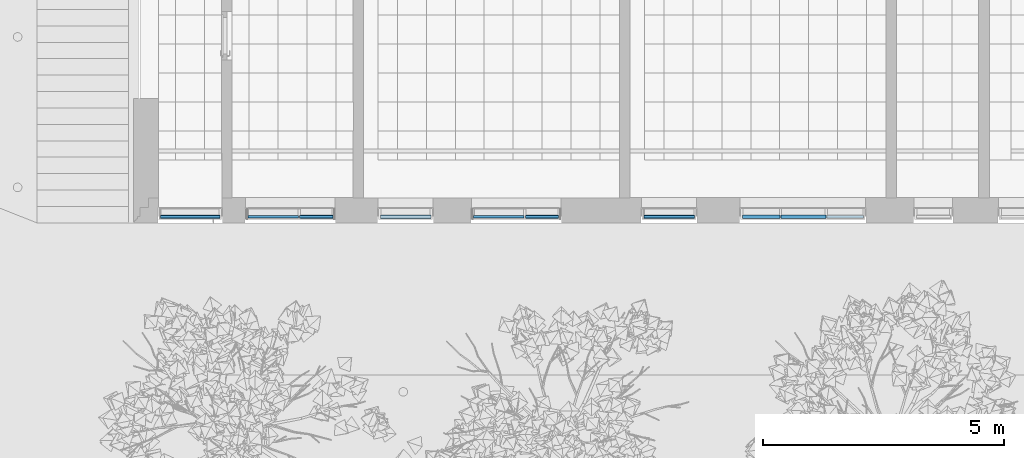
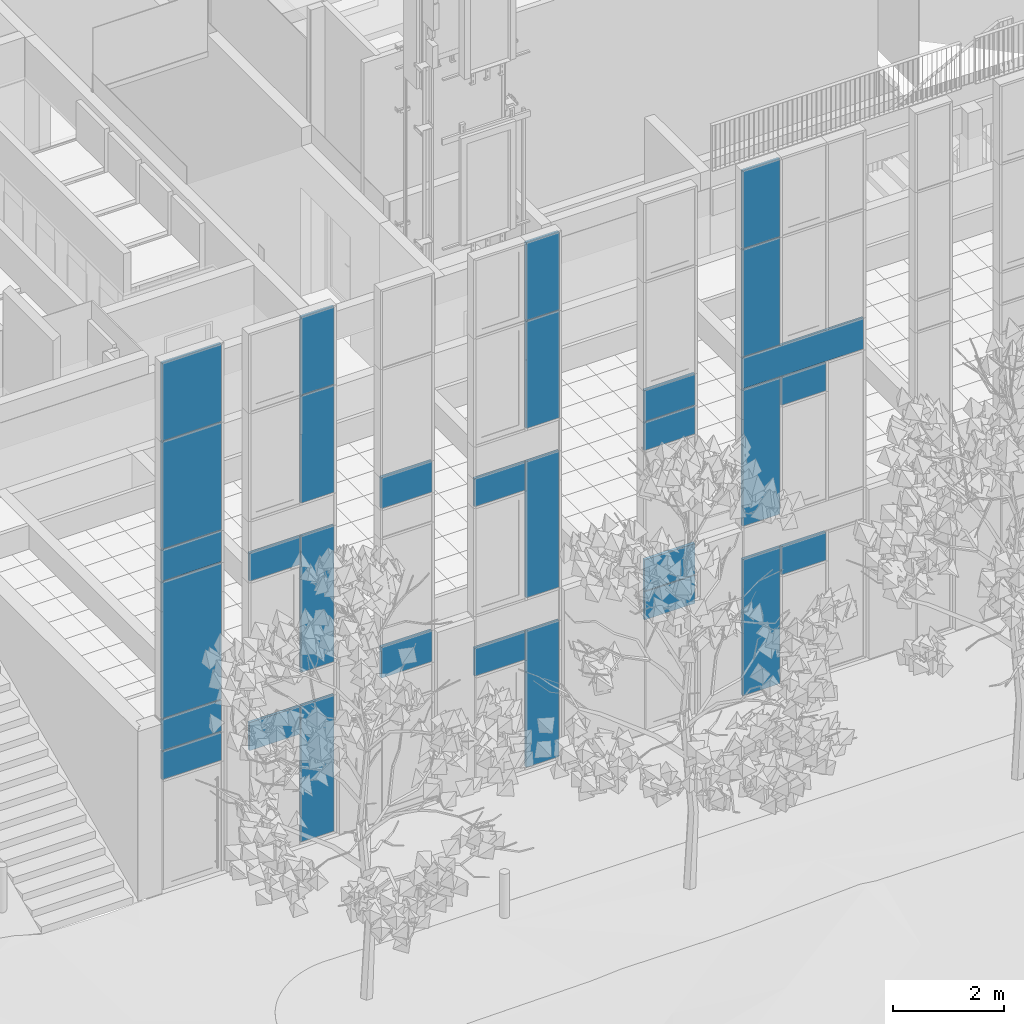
# One storey, part 49 of 246: 31 plates, 6 elements without a shape of their own.
"""IFC2X3 building model written with IfcOpenShell, lengths in millimetres."""

from ifc_helpers import new_model, entity, si_unit, converted_unit, derived_unit, money_unit, direction, frame, origin_with_axes, place, context, subcontext, project, spatial, faceted_brep, source, transform, mapped, material, type_object, element, aggregate, save


model = new_model("IFC2X3")

# Units and contexts
model_context = context("Model", 3, precision=0.01, world=origin_with_axes(), true_north=direction((0.0, 1.0)))
body_context = subcontext(model_context, "Body", "Model", "MODEL_VIEW")
ifc_project = project(units=[si_unit("LENGTHUNIT", "METRE", prefix="MILLI"), si_unit("AREAUNIT", "SQUARE_METRE"), si_unit("VOLUMEUNIT", "CUBIC_METRE"), converted_unit("PLANEANGLEUNIT", "DEGREE", entity("IfcPlaneAngleMeasure", 0.0174532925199), si_unit("PLANEANGLEUNIT", "RADIAN"), dimensions=[0, 0, 0, 0, 0, 0, 0]), si_unit("SOLIDANGLEUNIT", "STERADIAN"), money_unit("EUR"), converted_unit("TIMEUNIT", "Year", entity("IfcTimeMeasure", 31556926.0), si_unit("TIMEUNIT", "SECOND"), dimensions=[0, 0, 1, 0, 0, 0, 0]), si_unit("MASSUNIT", "GRAM", prefix="KILO"), si_unit("THERMODYNAMICTEMPERATUREUNIT", "DEGREE_CELSIUS"), si_unit("LUMINOUSINTENSITYUNIT", "LUMEN"), si_unit("ENERGYUNIT", "JOULE", prefix="MEGA"), derived_unit("THERMALCONDUCTANCEUNIT", [(si_unit("POWERUNIT", "WATT"), 1), (si_unit("LENGTHUNIT", "METRE"), -1), (si_unit("THERMODYNAMICTEMPERATUREUNIT", "KELVIN"), -1)]), derived_unit("SPECIFICHEATCAPACITYUNIT", [(si_unit("ENERGYUNIT", "JOULE"), 1), (si_unit("MASSUNIT", "GRAM", prefix="KILO"), -1), (si_unit("THERMODYNAMICTEMPERATUREUNIT", "KELVIN"), -1)]), derived_unit("MASSDENSITYUNIT", [(si_unit("MASSUNIT", "GRAM", prefix="KILO"), 1), (si_unit("VOLUMEUNIT", "CUBIC_METRE"), -1)])], contexts=[model_context])

# Site, building, storey
site_placement = place(None, origin_with_axes())
site = spatial("IfcSite", under=ifc_project, at=site_placement, Name="L.Koidula tn 11b", CompositionType="ELEMENT")
building_placement = place(site_placement, origin_with_axes())
building = spatial("IfcBuilding", under=site, at=building_placement, Name="Rakvere Riigigümnaasium", CompositionType="ELEMENT")
storey_placement = place(building_placement, origin_with_axes())
storey = spatial("IfcBuildingStorey", under=building, at=storey_placement, Name="1.korrus 0,00", CompositionType="ELEMENT", Elevation=0.0)

# Curtain wall, plates
curtain_wall_type = type_object("IfcCurtainWallType", Name="Curtain Wall Type", PredefinedType="NOTDEFINED")
curtain_wall_1_placement = place(storey_placement, frame((42948.5002114, 5111.45334637, -8.09717250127e-06), z_axis=(0.0, 0.0, 1.0), x_axis=(1.0, 0.0, 0.0)))
curtain_wall_1 = element("IfcCurtainWall", 1, at=curtain_wall_1_placement, inside=storey, type_object=curtain_wall_type, Name="KLF-05-2A")
ifc_material_1 = material(Name="Klaaspakett 3x ribikardinatega")
plate_type_1 = type_object("IfcPlateType", Name="1046 x 616 x 54", PredefinedType="CURTAIN_PANEL")
shared_shape_1 = source(origin_with_axes(), body_context, "Body", "Brep", [
    faceted_brep([(1082.99999844, 627.999994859, -27.0), (36.9999953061, 627.999994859, -27.0), (36.9999953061, 627.999994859, 27.0), (1082.99999844, 627.999994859, 27.0), (1082.99999844, 12.0000015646, -27.0), (36.9999953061, 12.0000015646, -27.0), (36.9999953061, 12.0000015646, 27.0), (1082.99999844, 12.0000015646, 27.0)], [[[0, 1, 2, 3]], [[0, 4, 5, 1]], [[1, 5, 6, 2]], [[3, 2, 6, 7]], [[4, 0, 3, 7]], [[5, 4, 7, 6]]]),
])
plate_1_placement = place(curtain_wall_1_placement, frame((-582.333458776, 0.0, 2720.0), z_axis=(0.0, 0.0, 1.0), x_axis=(-1.0, 0.0, 0.0)))
plate_1 = element("IfcPlate", 2, at=plate_1_placement, type_object=plate_type_1, material=ifc_material_1, Name="KLF-58", ObjectType="CURTAIN_PANEL", context=body_context, shape_type="MappedRepresentation", body=[
    mapped(shared_shape_1, transform((371.666628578, 0.0, -320.0), x_axis=(-1.0, 0.0, 0.0), y_axis=(0.0, 0.0, 1.0), z_axis=(0.0, 1.0, 0.0))),
])
plate_2_placement = place(curtain_wall_1_placement, frame((-582.333458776, 0.0, 6440.0), z_axis=(0.0, 0.0, 1.0), x_axis=(-1.0, 0.0, 0.0)))
plate_2 = element("IfcPlate", 3, at=plate_2_placement, type_object=plate_type_1, material=ifc_material_1, Name="KLF-71", ObjectType="CURTAIN_PANEL", context=body_context, shape_type="MappedRepresentation", body=[
    mapped(shared_shape_1, transform((371.666628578, 0.0, -320.0), x_axis=(-1.0, 0.0, 0.0), y_axis=(0.0, 0.0, 1.0), z_axis=(0.0, 1.0, 0.0))),
])

curtain_wall_2_placement = place(storey_placement, frame((38273.9956035, 5111.45334637, -8.09717250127e-06), z_axis=(0.0, 0.0, 1.0), x_axis=(1.0, 0.0, 0.0)))
curtain_wall_2 = element("IfcCurtainWall", 4, at=curtain_wall_2_placement, inside=storey, type_object=curtain_wall_type, Name="KLF-05-2A")
plate_3_placement = place(curtain_wall_2_placement, frame((-582.333458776, 0.0, 2720.0), z_axis=(0.0, 0.0, 1.0), x_axis=(-1.0, 0.0, 0.0)))
plate_3 = element("IfcPlate", 5, at=plate_3_placement, type_object=plate_type_1, material=ifc_material_1, Name="KLF-58", ObjectType="CURTAIN_PANEL", context=body_context, shape_type="MappedRepresentation", body=[
    mapped(shared_shape_1, transform((371.666628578, 0.0, -320.0), x_axis=(-1.0, 0.0, 0.0), y_axis=(0.0, 0.0, 1.0), z_axis=(0.0, 1.0, 0.0))),
])
plate_4_placement = place(curtain_wall_2_placement, frame((-582.333458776, 0.0, 6440.0), z_axis=(0.0, 0.0, 1.0), x_axis=(-1.0, 0.0, 0.0)))
plate_4 = element("IfcPlate", 6, at=plate_4_placement, type_object=plate_type_1, material=ifc_material_1, Name="KLF-71", ObjectType="CURTAIN_PANEL", context=body_context, shape_type="MappedRepresentation", body=[
    mapped(shared_shape_1, transform((371.666628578, 0.0, -320.0), x_axis=(-1.0, 0.0, 0.0), y_axis=(0.0, 0.0, 1.0), z_axis=(0.0, 1.0, 0.0))),
])

curtain_wall_3_placement = place(storey_placement, frame((48860.000217, 5111.43278481, -1.61944597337e-05), z_axis=(0.0, 0.0, 1.0), x_axis=(1.0, 0.0, 0.0)))
curtain_wall_3 = element("IfcCurtainWall", 7, at=curtain_wall_3_placement, inside=storey, type_object=curtain_wall_type, Name="KLF-05-3A")
plate_type_2 = type_object("IfcPlateType", Name="Distinct Panel 926 x 616 x 65", PredefinedType="CURTAIN_PANEL")
shared_shape_2 = source(origin_with_axes(), body_context, "Body", "Brep", [
    faceted_brep([(938.00000149, 628.000002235, -32.5), (11.9999985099, 628.000002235, -32.5), (11.9999985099, 628.000002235, 32.5), (938.00000149, 628.000002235, 32.5), (938.00000149, 11.9999985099, -32.5), (11.9999985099, 11.9999985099, -32.5), (11.9999985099, 11.9999985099, 32.5), (938.00000149, 11.9999985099, 32.5)], [[[0, 1, 2, 3]], [[0, 4, 5, 1]], [[1, 5, 6, 2]], [[3, 2, 6, 7]], [[4, 0, 3, 7]], [[5, 4, 7, 6]]]),
])
plate_5_placement = place(curtain_wall_3_placement, frame((0.0, 0.0, 2720.0), z_axis=(0.0, 0.0, 1.0), x_axis=(-0.999999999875, 1.58166009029e-05, 0.0)))
plate_5 = element("IfcPlate", 8, at=plate_5_placement, type_object=plate_type_2, material=ifc_material_1, Name="KLF-05-3A-Klaasid", ObjectType="CURTAIN_PANEL", context=body_context, shape_type="MappedRepresentation", body=[
    mapped(shared_shape_2, transform((475.0, 0.0, -320.0), x_axis=(-1.0, 0.0, 0.0), y_axis=(0.0, 0.0, 1.0), z_axis=(0.0, 1.0, 0.0))),
])
plate_6_placement = place(curtain_wall_3_placement, frame((0.0, 0.0, 6440.0), z_axis=(0.0, 0.0, 1.0), x_axis=(-0.999999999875, 1.58166009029e-05, 0.0)))
plate_6 = element("IfcPlate", 9, at=plate_6_placement, type_object=plate_type_2, material=ifc_material_1, Name="KLF-05-3A-Klaasid", ObjectType="CURTAIN_PANEL", context=body_context, shape_type="MappedRepresentation", body=[
    mapped(shared_shape_2, transform((475.0, 0.0, -320.0), x_axis=(-1.0, 0.0, 0.0), y_axis=(0.0, 0.0, 1.0), z_axis=(0.0, 1.0, 0.0))),
])
ifc_material_2 = material(Name="Klaaspakett- taustvärvitud klaas 3x")
plate_type_3 = type_object("IfcPlateType", Name="788 x 681 x 54", PredefinedType="CURTAIN_PANEL")
shared_shape_3 = source(origin_with_axes(), body_context, "Body", "Brep", [
    faceted_brep([(2542.99946897, 693.000015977, -27.0), (1775.00001496, 693.000015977, -27.0), (1775.00001496, 693.000015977, 27.0), (2542.99946897, 693.000015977, 27.0), (2542.99946897, 11.9999992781, -27.0), (1775.00001496, 11.9999992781, -27.0), (825.000008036, 11.9999992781, -27.0), (36.9999913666, 11.9999992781, -27.0), (36.9999913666, 693.000015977, -27.0), (825.000008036, 693.000015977, -27.0), (825.000008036, 693.000015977, 27.0), (36.9999913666, 693.000015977, 27.0), (36.9999913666, 11.9999992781, 27.0), (825.000008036, 11.9999992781, 27.0), (1775.00001496, 11.9999992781, 27.0), (2542.99946897, 11.9999992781, 27.0)], [[[0, 1, 2, 3]], [[0, 4, 5, 6, 7, 8, 9, 1]], [[1, 9, 10, 2]], [[3, 2, 10, 11, 12, 13, 14, 15]], [[4, 0, 3, 15]], [[5, 4, 15, 14]], [[6, 5, 14, 13]], [[7, 6, 13, 12]], [[8, 7, 12, 11]], [[9, 8, 11, 10]]]),
])
plate_7_placement = place(curtain_wall_3_placement, frame((-5.00013491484, 7.9085138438e-05, 7112.5), z_axis=(0.0, 0.0, 1.0), x_axis=(-0.999999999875, 1.58166009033e-05, 0.0)))
plate_7 = element("IfcPlate", 10, at=plate_7_placement, type_object=plate_type_3, material=ifc_material_2, Name="KLF-05-3A-Klaasid", ObjectType="CURTAIN_PANEL", context=body_context, shape_type="MappedRepresentation", body=[
    mapped(shared_shape_3, transform((1294.99986508, 0.0, -352.5), x_axis=(-1.0, 0.0, 0.0), y_axis=(0.0, 0.0, 1.0), z_axis=(0.0, 1.0, 0.0))),
])

curtain_wall_4_placement = place(storey_placement, frame((40619.71659, 5111.45334637, -1.61944636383e-05), z_axis=(0.0, 0.0, 1.0), x_axis=(1.0, 0.0, 0.0)))
curtain_wall_4 = element("IfcCurtainWall", 11, at=curtain_wall_4_placement, inside=storey, type_object=curtain_wall_type, Name="KLF-05-1D")
plate_type_4 = type_object("IfcPlateType", Name="1046 x 681 x 65", PredefinedType="CURTAIN_PANEL")
shared_shape_4 = source(origin_with_axes(), body_context, "Body", "Brep", [
    faceted_brep([(1083.50020101, 692.999994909, -32.5), (37.4999016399, 692.999994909, -32.5), (37.4999016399, 692.999994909, 32.5), (1083.50020101, 692.999994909, 32.5), (1083.50020101, 12.0000057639, -32.5), (37.4999016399, 12.0000057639, -32.5), (37.4999016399, 12.0000057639, 32.5), (1083.50020101, 12.0000057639, 32.5)], [[[0, 1, 2, 3]], [[0, 4, 5, 1]], [[1, 5, 6, 2]], [[3, 2, 6, 7]], [[4, 0, 3, 7]], [[5, 4, 7, 6]]]),
])
plate_8_placement = place(curtain_wall_4_placement, frame((0.0, 0.0, 3392.5), z_axis=(0.0, 0.0, 1.0), x_axis=(-1.0, 0.0, 0.0)))
plate_8 = element("IfcPlate", 12, at=plate_8_placement, type_object=plate_type_4, material=ifc_material_2, Name="KLF-05-1C-Klaasid", ObjectType="CURTAIN_PANEL", context=body_context, shape_type="MappedRepresentation", body=[
    mapped(shared_shape_4, transform((560.500051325, 0.0, -352.5), x_axis=(-1.0, 0.0, 0.0), y_axis=(0.0, 0.0, 1.0), z_axis=(0.0, 1.0, 0.0))),
])
plate_9_placement = place(curtain_wall_4_placement, frame((0.0, 0.0, 7112.5), z_axis=(0.0, 0.0, 1.0), x_axis=(-1.0, 0.0, 0.0)))
plate_9 = element("IfcPlate", 13, at=plate_9_placement, type_object=plate_type_4, material=ifc_material_2, Name="KLF-05-1C-Klaasid", ObjectType="CURTAIN_PANEL", context=body_context, shape_type="MappedRepresentation", body=[
    mapped(shared_shape_4, transform((560.500051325, 0.0, -352.5), x_axis=(-1.0, 0.0, 0.0), y_axis=(0.0, 0.0, 1.0), z_axis=(0.0, 1.0, 0.0))),
])
aggregate(curtain_wall_4, [plate_8, plate_9])

# Plate
ifc_material_3 = material(Name="Klaaspakett 3x")
plate_type_5 = type_object("IfcPlateType", Name="Distinct Panel 686 x 1701 x 65", PredefinedType="CURTAIN_PANEL")
shared_shape_5 = source(origin_with_axes(), body_context, "Body", "Brep", [
    faceted_brep([(698.000349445, 1713.0000343, -32.5), (12.0000099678, 1713.0000343, -32.5), (12.0000099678, 1713.0000343, 32.5), (698.000349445, 1713.0000343, 32.5), (698.000271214, 12.0000099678, -32.5), (12.0000099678, 12.0000099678, -32.5), (12.0000099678, 12.0000099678, 32.5), (698.000271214, 12.0000099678, 32.5)], [[[0, 1, 2, 3]], [[0, 4, 5, 1]], [[1, 5, 6, 2]], [[3, 2, 6, 7]], [[4, 0, 3, 7]], [[5, 4, 7, 6]]]),
])
plate_10_placement = place(curtain_wall_1_placement, frame((508.500066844, 0.0, 10715.0000206), z_axis=(0.0, 0.0, 1.0), x_axis=(-1.0, 0.0, 0.0)))
plate_10 = element("IfcPlate", 14, at=plate_10_placement, type_object=plate_type_5, material=ifc_material_3, Name="KLF-05-6A-Klaasid", ObjectType="CURTAIN_PANEL", context=body_context, shape_type="MappedRepresentation", body=[
    mapped(shared_shape_5, transform((367.500154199, 0.0, -875.000020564), x_axis=(-1.0, 0.0, 0.0), y_axis=(0.0, 0.0, 1.0), z_axis=(0.0, 1.0, 0.0))),
])

plate_11_placement = place(curtain_wall_2_placement, frame((508.500066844, 0.0, 10715.0000206), z_axis=(0.0, 0.0, 1.0), x_axis=(-1.0, 0.0, 0.0)))
plate_11 = element("IfcPlate", 15, at=plate_11_placement, type_object=plate_type_5, material=ifc_material_3, Name="KLF-05-6A-Klaasid", ObjectType="CURTAIN_PANEL", context=body_context, shape_type="MappedRepresentation", body=[
    mapped(shared_shape_5, transform((367.500154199, 0.0, -875.000020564), x_axis=(-1.0, 0.0, 0.0), y_axis=(0.0, 0.0, 1.0), z_axis=(0.0, 1.0, 0.0))),
])

plate_type_6 = type_object("IfcPlateType", Name="Distinct Panel 686 x 828 x 65", PredefinedType="CURTAIN_PANEL")
shared_shape_6 = source(origin_with_axes(), body_context, "Body", "Brep", [
    faceted_brep([(698.000243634, 2363.00000149, -32.5), (11.9999985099, 2363.00000149, -32.5), (11.9999985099, 2363.00000149, 32.5), (698.000243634, 2363.00000149, 32.5), (698.000279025, 11.9999985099, -32.5), (11.9999985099, 11.9999985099, -32.5), (11.9999985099, 1534.99999814, -32.5), (11.9999985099, 1534.99999814, 32.5), (11.9999985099, 11.9999985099, 32.5), (698.000279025, 11.9999985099, 32.5)], [[[0, 1, 2, 3]], [[0, 4, 5, 6, 1]], [[1, 6, 7, 2]], [[3, 2, 7, 8, 9]], [[4, 0, 3, 9]], [[5, 4, 9, 8]], [[6, 5, 8, 7]]]),
])
plate_12_placement = place(curtain_wall_1_placement, frame((507.666714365, 0.0, 8512.5), z_axis=(0.0, 0.0, 1.0), x_axis=(-1.0, 0.0, 0.0)))
plate_12 = element("IfcPlate", 16, at=plate_12_placement, type_object=plate_type_6, material=ifc_material_3, Name="KLF-05-2A-Klaasid", ObjectType="CURTAIN_PANEL", context=body_context, shape_type="MappedRepresentation", body=[
    mapped(shared_shape_6, transform((366.666801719, 0.0, -1047.5), x_axis=(-1.0, 0.0, 0.0), y_axis=(0.0, 0.0, 1.0), z_axis=(0.0, 1.0, 0.0))),
])

plate_13_placement = place(curtain_wall_2_placement, frame((507.666714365, 0.0, 8512.5), z_axis=(0.0, 0.0, 1.0), x_axis=(-1.0, 0.0, 0.0)))
plate_13 = element("IfcPlate", 17, at=plate_13_placement, type_object=plate_type_6, material=ifc_material_3, Name="KLF-05-2A-Klaasid", ObjectType="CURTAIN_PANEL", context=body_context, shape_type="MappedRepresentation", body=[
    mapped(shared_shape_6, transform((366.666801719, 0.0, -1047.5), x_axis=(-1.0, 0.0, 0.0), y_axis=(0.0, 0.0, 1.0), z_axis=(0.0, 1.0, 0.0))),
])

plate_type_7 = type_object("IfcPlateType", Name="686 x 628 x 54", PredefinedType="CURTAIN_PANEL")
shared_shape_7 = source(origin_with_axes(), body_context, "Body", "Brep", [
    faceted_brep([(698.000286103, 3028.00000715, -27.0), (11.9999928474, 3028.00000715, -27.0), (11.9999928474, 3028.00000715, 27.0), (698.000286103, 3028.00000715, 27.0), (698.000286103, 2400.00001907, -27.0), (698.000286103, 37.0000119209, -27.0), (11.9999928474, 37.0000119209, -27.0), (11.9999928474, 2400.00001907, -27.0), (11.9999928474, 2400.00001907, 27.0), (11.9999928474, 37.0000119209, 27.0), (698.000286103, 37.0000119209, 27.0), (698.000286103, 2400.00001907, 27.0)], [[[0, 1, 2, 3]], [[0, 4, 5, 6, 7, 1]], [[1, 7, 8, 2]], [[3, 2, 8, 9, 10, 11]], [[4, 0, 3, 11]], [[5, 4, 11, 10]], [[6, 5, 10, 9]], [[7, 6, 9, 8]]]),
])
plate_14_placement = place(curtain_wall_1_placement, frame((599.125087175, 0.0, 1740.0), z_axis=(0.0, 0.0, 1.0), x_axis=(-1.0, 0.0, 0.0)))
plate_14 = element("IfcPlate", 18, at=plate_14_placement, type_object=plate_type_7, material=ifc_material_1, Name="KLF-59", ObjectType="CURTAIN_PANEL", context=body_context, shape_type="MappedRepresentation", body=[
    mapped(shared_shape_7, transform((458.125174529, 0.0, -1740.0), x_axis=(-1.0, 0.0, 0.0), y_axis=(0.0, 0.0, 1.0), z_axis=(0.0, 1.0, 0.0))),
])

plate_15_placement = place(curtain_wall_2_placement, frame((599.125087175, 0.0, 1740.0), z_axis=(0.0, 0.0, 1.0), x_axis=(-1.0, 0.0, 0.0)))
plate_15 = element("IfcPlate", 19, at=plate_15_placement, type_object=plate_type_7, material=ifc_material_1, Name="KLF-59", ObjectType="CURTAIN_PANEL", context=body_context, shape_type="MappedRepresentation", body=[
    mapped(shared_shape_7, transform((458.125174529, 0.0, -1740.0), x_axis=(-1.0, 0.0, 0.0), y_axis=(0.0, 0.0, 1.0), z_axis=(0.0, 1.0, 0.0))),
])

shared_shape_8 = source(origin_with_axes(), body_context, "Body", "Brep", [
    faceted_brep([(698.000300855, 3002.99998659, -27.0), (12.0000134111, 3002.99998659, -27.0), (12.0000134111, 3002.99998659, 27.0), (698.000300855, 3002.99998659, 27.0), (698.000300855, 2375.00001855, -27.0), (698.000300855, 12.0000134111, -27.0), (12.0000134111, 12.0000134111, -27.0), (12.0000134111, 2375.00001855, -27.0), (12.0000134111, 2375.00001855, 27.0), (12.0000134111, 12.0000134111, 27.0), (698.000300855, 12.0000134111, 27.0), (698.000300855, 2375.00001855, 27.0)], [[[0, 1, 2, 3]], [[0, 4, 5, 6, 7, 1]], [[1, 7, 8, 2]], [[3, 2, 8, 9, 10, 11]], [[4, 0, 3, 11]], [[5, 4, 11, 10]], [[6, 5, 10, 9]], [[7, 6, 9, 8]]]),
])
plate_16_placement = place(curtain_wall_1_placement, frame((599.125087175, 0.0, 5469.375), z_axis=(0.0, 0.0, 1.0), x_axis=(-1.0, 0.0, 0.0)))
plate_16 = element("IfcPlate", 20, at=plate_16_placement, type_object=plate_type_7, material=ifc_material_1, Name="KLF-63", ObjectType="CURTAIN_PANEL", context=body_context, shape_type="MappedRepresentation", body=[
    mapped(shared_shape_8, transform((458.125174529, 0.0, -1724.375), x_axis=(-1.0, 0.0, 0.0), y_axis=(0.0, 0.0, 1.0), z_axis=(0.0, 1.0, 0.0))),
])

aggregate(curtain_wall_1, [plate_10, plate_1, plate_12, plate_14, plate_2, plate_16])

plate_17_placement = place(curtain_wall_2_placement, frame((599.125087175, 0.0, 5469.375), z_axis=(0.0, 0.0, 1.0), x_axis=(-1.0, 0.0, 0.0)))
plate_17 = element("IfcPlate", 21, at=plate_17_placement, type_object=plate_type_7, material=ifc_material_1, Name="KLF-63", ObjectType="CURTAIN_PANEL", context=body_context, shape_type="MappedRepresentation", body=[
    mapped(shared_shape_8, transform((458.125174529, 0.0, -1724.375), x_axis=(-1.0, 0.0, 0.0), y_axis=(0.0, 0.0, 1.0), z_axis=(0.0, 1.0, 0.0))),
])

aggregate(curtain_wall_2, [plate_11, plate_3, plate_13, plate_15, plate_4, plate_17])

plate_type_8 = type_object("IfcPlateType", Name="Distinct Panel 776 x 2351 x 65", PredefinedType="CURTAIN_PANEL")
shared_shape_9 = source(origin_with_axes(), body_context, "Body", "Brep", [
    faceted_brep([(813.000005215, 2363.00000149, -32.5), (36.9999836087, 2363.00000149, -32.5), (36.9999836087, 2363.00000149, 32.5), (813.000005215, 2363.00000149, 32.5), (813.000005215, 11.9999985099, -32.5), (36.9999836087, 11.9999985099, -32.5), (36.9999836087, 11.9999985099, 32.5), (813.000005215, 11.9999985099, 32.5)], [[[0, 1, 2, 3]], [[0, 4, 5, 1]], [[1, 5, 6, 2]], [[3, 2, 6, 7]], [[4, 0, 3, 7]], [[5, 4, 7, 6]]]),
])
plate_18_placement = place(curtain_wall_3_placement, frame((-887.499999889, 0.0140372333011, 8652.5), z_axis=(0.0, 0.0, 1.0), x_axis=(-0.999999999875, 1.58166009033e-05, 0.0)))
plate_18 = element("IfcPlate", 22, at=plate_18_placement, type_object=plate_type_8, material=ifc_material_1, Name="KLF-05-3A-Klaasid", ObjectType="CURTAIN_PANEL", context=body_context, shape_type="MappedRepresentation", body=[
    mapped(shared_shape_9, transform((412.5, 0.0, -1187.5), x_axis=(-1.0, 0.0, 0.0), y_axis=(0.0, 0.0, 1.0), z_axis=(0.0, 1.0, 0.0))),
])

plate_type_9 = type_object("IfcPlateType", Name="Distinct Panel 776 x 628 x 65", PredefinedType="CURTAIN_PANEL")
shared_shape_10 = source(origin_with_axes(), body_context, "Body", "Brep", [
    faceted_brep([(813.000010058, 3002.99998659, -32.5), (36.999981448, 3002.99998659, -32.5), (36.999981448, 3002.99998659, 32.5), (813.000010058, 3002.99998659, 32.5), (813.000010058, 2375.00001855, -32.5), (813.000010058, 12.0000134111, -32.5), (36.999981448, 12.0000134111, -32.5), (36.999981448, 2375.00001855, -32.5), (36.999981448, 2375.00001855, 32.5), (36.999981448, 12.0000134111, 32.5), (813.000010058, 12.0000134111, 32.5), (813.000010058, 2375.00001855, 32.5)], [[[0, 1, 2, 3]], [[0, 4, 5, 6, 7, 1]], [[1, 7, 8, 2]], [[3, 2, 8, 9, 10, 11]], [[4, 0, 3, 11]], [[5, 4, 11, 10]], [[6, 5, 10, 9]], [[7, 6, 9, 8]]]),
])
plate_19_placement = place(curtain_wall_3_placement, frame((-887.499999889, 0.0140372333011, 5541.66666667), z_axis=(0.0, 0.0, 1.0), x_axis=(-0.999999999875, 1.58166009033e-05, 0.0)))
plate_19 = element("IfcPlate", 23, at=plate_19_placement, type_object=plate_type_9, material=ifc_material_1, Name="KLF-05-3A-Klaasid", ObjectType="CURTAIN_PANEL", context=body_context, shape_type="MappedRepresentation", body=[
    mapped(shared_shape_10, transform((412.5, 0.0, -1796.66666667), x_axis=(-1.0, 0.0, 0.0), y_axis=(0.0, 0.0, 1.0), z_axis=(0.0, 1.0, 0.0))),
])

shared_shape_11 = source(origin_with_axes(), body_context, "Body", "Brep", [
    faceted_brep([(813.000002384, 3028.00000715, -32.5), (37.0000119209, 3028.00000715, -32.5), (37.0000119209, 3028.00000715, 32.5), (813.000002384, 3028.00000715, 32.5), (813.000002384, 2400.00001907, -32.5), (813.000002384, 37.0000119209, -32.5), (37.0000119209, 37.0000119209, -32.5), (37.0000119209, 2400.00001907, -32.5), (37.0000119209, 2400.00001907, 32.5), (37.0000119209, 37.0000119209, 32.5), (813.000002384, 37.0000119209, 32.5), (813.000002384, 2400.00001907, 32.5)], [[[0, 1, 2, 3]], [[0, 4, 5, 6, 7, 1]], [[1, 7, 8, 2]], [[3, 2, 8, 9, 10, 11]], [[4, 0, 3, 11]], [[5, 4, 11, 10]], [[6, 5, 10, 9]], [[7, 6, 9, 8]]]),
])
plate_20_placement = place(curtain_wall_3_placement, frame((-887.499999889, 0.0140372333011, 1813.33333333), z_axis=(0.0, 0.0, 1.0), x_axis=(-0.999999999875, 1.58166009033e-05, 0.0)))
plate_20 = element("IfcPlate", 24, at=plate_20_placement, type_object=plate_type_9, material=ifc_material_1, Name="KLF-05-3A-Klaasid", ObjectType="CURTAIN_PANEL", context=body_context, shape_type="MappedRepresentation", body=[
    mapped(shared_shape_11, transform((412.5, 0.0, -1813.33333333), x_axis=(-1.0, 0.0, 0.0), y_axis=(0.0, 0.0, 1.0), z_axis=(0.0, 1.0, 0.0))),
])

plate_type_10 = type_object("IfcPlateType", Name="Distinct Panel 776 x 1701 x 65", PredefinedType="CURTAIN_PANEL")
shared_shape_12 = source(origin_with_axes(), body_context, "Body", "Brep", [
    faceted_brep([(812.999990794, 1713.0000343, -32.5), (37.00000683, 1713.0000343, -32.5), (37.00000683, 1713.0000343, 32.5), (812.999990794, 1713.0000343, 32.5), (812.999990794, 12.0000099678, -32.5), (37.00000683, 12.0000099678, -32.5), (37.00000683, 12.0000099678, 32.5), (812.999990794, 12.0000099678, 32.5)], [[[0, 1, 2, 3]], [[0, 4, 5, 1]], [[1, 5, 6, 2]], [[3, 2, 6, 7]], [[4, 0, 3, 7]], [[5, 4, 7, 6]]]),
])
plate_21_placement = place(curtain_wall_3_placement, frame((-887.499999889, 0.0140372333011, 10715.0000206), z_axis=(0.0, 0.0, 1.0), x_axis=(-0.999999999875, 1.58166009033e-05, 0.0)))
plate_21 = element("IfcPlate", 25, at=plate_21_placement, type_object=plate_type_10, material=ifc_material_1, Name="KLF-05-0A-Klaasid", ObjectType="CURTAIN_PANEL", context=body_context, shape_type="MappedRepresentation", body=[
    mapped(shared_shape_12, transform((412.5, 0.0, -875.000020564), x_axis=(-1.0, 0.0, 0.0), y_axis=(0.0, 0.0, 1.0), z_axis=(0.0, 1.0, 0.0))),
])

aggregate(curtain_wall_3, [plate_5, plate_7, plate_6, plate_18, plate_19, plate_20, plate_21])

# Curtain wall, plates
curtain_wall_5_placement = place(storey_placement, frame((35950.585925, 5111.45334637, -1.61944652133e-05), z_axis=(0.0, 0.0, 1.0), x_axis=(1.0, 0.0, 0.0)))
curtain_wall_5 = element("IfcCurtainWall", 26, at=curtain_wall_5_placement, inside=storey, type_object=curtain_wall_type, Name="KLF-05-1A")
plate_type_11 = type_object("IfcPlateType", Name="1226 x 616 x 54", PredefinedType="CURTAIN_PANEL")
shared_shape_13 = source(origin_with_axes(), body_context, "Body", "Brep", [
    faceted_brep([(1263.22148635, 627.99999204, -27.0), (36.9999934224, 627.99999204, -27.0), (36.9999934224, 627.99999204, 27.0), (1263.22148635, 627.99999204, 27.0), (1263.22148635, 11.9999936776, -27.0), (36.9999934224, 11.9999936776, -27.0), (36.9999934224, 11.9999936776, 27.0), (1263.22148635, 11.9999936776, 27.0)], [[[0, 1, 2, 3]], [[0, 4, 5, 1]], [[1, 5, 6, 2]], [[3, 2, 6, 7]], [[4, 0, 3, 7]], [[5, 4, 7, 6]]]),
])
plate_22_placement = place(curtain_wall_5_placement, frame((0.0, 0.0, 2720.0), z_axis=(0.0, 0.0, 1.0), x_axis=(-1.0, 0.0, 0.0)))
plate_22 = element("IfcPlate", 27, at=plate_22_placement, type_object=plate_type_11, material=ifc_material_1, Name="KLF-01-1A-klaasid", ObjectType="CURTAIN_PANEL", context=body_context, shape_type="MappedRepresentation", body=[
    mapped(shared_shape_13, transform((440.585924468, 0.0, -320.0), x_axis=(-1.0, 0.0, 0.0), y_axis=(0.0, 0.0, 1.0), z_axis=(0.0, 1.0, 0.0))),
])
plate_type_12 = type_object("IfcPlateType", Name="1226 x 681 x 54", PredefinedType="CURTAIN_PANEL")
shared_shape_14 = source(origin_with_axes(), body_context, "Body", "Brep", [
    faceted_brep([(1263.22148635, 693.000003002, -27.0), (36.9999934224, 693.000003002, -27.0), (36.9999934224, 693.000003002, 27.0), (1263.22148635, 693.000003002, 27.0), (1263.22148635, 11.9999936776, -27.0), (36.9999934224, 11.9999936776, -27.0), (36.9999934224, 11.9999936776, 27.0), (1263.22148635, 11.9999936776, 27.0)], [[[0, 1, 2, 3]], [[0, 4, 5, 1]], [[1, 5, 6, 2]], [[3, 2, 6, 7]], [[4, 0, 3, 7]], [[5, 4, 7, 6]]]),
])
plate_23_placement = place(curtain_wall_5_placement, frame((0.0, 0.0, 3392.5), z_axis=(0.0, 0.0, 1.0), x_axis=(-1.0, 0.0, 0.0)))
plate_23 = element("IfcPlate", 28, at=plate_23_placement, type_object=plate_type_12, material=ifc_material_2, Name="KLF-01-1A-klaasid", ObjectType="CURTAIN_PANEL", context=body_context, shape_type="MappedRepresentation", body=[
    mapped(shared_shape_14, transform((440.585924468, 0.0, -352.5), x_axis=(-1.0, 0.0, 0.0), y_axis=(0.0, 0.0, 1.0), z_axis=(0.0, 1.0, 0.0))),
])
plate_type_13 = type_object("IfcPlateType", Name="1226 x 628 x 54", PredefinedType="CURTAIN_PANEL")
shared_shape_15 = source(origin_with_axes(), body_context, "Body", "Brep", [
    faceted_brep([(1263.22146417, 3002.99998659, -27.0), (36.999981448, 3002.99998659, -27.0), (36.999981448, 3002.99998659, 27.0), (1263.22146417, 3002.99998659, 27.0), (1263.22146417, 2375.00001855, -27.0), (1263.22146417, 12.0000134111, -27.0), (36.999981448, 12.0000134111, -27.0), (36.999981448, 2375.00001855, -27.0), (36.999981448, 2375.00001855, 27.0), (36.999981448, 12.0000134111, 27.0), (1263.22146417, 12.0000134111, 27.0), (1263.22146417, 2375.00001855, 27.0)], [[[0, 1, 2, 3]], [[0, 4, 5, 6, 7, 1]], [[1, 7, 8, 2]], [[3, 2, 8, 9, 10, 11]], [[4, 0, 3, 11]], [[5, 4, 11, 10]], [[6, 5, 10, 9]], [[7, 6, 9, 8]]]),
])
plate_24_placement = place(curtain_wall_5_placement, frame((119.728465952, 0.0, 5285.0), z_axis=(0.0, 0.0, 1.0), x_axis=(-1.0, 0.0, 0.0)))
plate_24 = element("IfcPlate", 29, at=plate_24_placement, type_object=plate_type_13, material=ifc_material_1, Name="KLF-01-1A-klaasid", ObjectType="CURTAIN_PANEL", context=body_context, shape_type="MappedRepresentation", body=[
    mapped(shared_shape_15, transform((560.31439042, 0.0, -1540.0), x_axis=(-1.0, 0.0, 0.0), y_axis=(0.0, 0.0, 1.0), z_axis=(0.0, 1.0, 0.0))),
])
shared_shape_16 = source(origin_with_axes(), body_context, "Body", "Brep", [
    faceted_brep([(1263.22153343, 693.000009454, -27.0), (36.9999948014, 693.000009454, -27.0), (36.9999948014, 693.000009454, 27.0), (1263.22153343, 693.000009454, 27.0), (1263.2214753, 11.9999941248, -27.0), (36.9999948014, 11.9999941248, -27.0), (36.9999948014, 11.9999941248, 27.0), (1263.2214753, 11.9999941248, 27.0)], [[[0, 1, 2, 3]], [[0, 4, 5, 1]], [[1, 5, 6, 2]], [[3, 2, 6, 7]], [[4, 0, 3, 7]], [[5, 4, 7, 6]]]),
])
plate_25_placement = place(curtain_wall_5_placement, frame((209.524827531, 0.0, 7112.5), z_axis=(0.0, 0.0, 1.0), x_axis=(-1.0, 0.0, 0.0)))
plate_25 = element("IfcPlate", 30, at=plate_25_placement, type_object=plate_type_12, material=ifc_material_2, Name="KLF-05-0A-Klaasid", ObjectType="CURTAIN_PANEL", context=body_context, shape_type="MappedRepresentation", body=[
    mapped(shared_shape_16, transform((650.110751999, 0.0, -352.5), x_axis=(-1.0, 0.0, 0.0), y_axis=(0.0, 0.0, 1.0), z_axis=(0.0, 1.0, 0.0))),
])
plate_type_14 = type_object("IfcPlateType", Name="Distinct Panel 1226 x 2351 x 65", PredefinedType="CURTAIN_PANEL")
shared_shape_17 = source(origin_with_axes(), body_context, "Body", "Brep", [
    faceted_brep([(1263.22159873, 2363.00000149, -32.5), (36.9999836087, 2363.00000149, -32.5), (36.9999836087, 2363.00000149, 32.5), (1263.22159873, 2363.00000149, 32.5), (1263.22152795, 11.9999985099, -32.5), (36.9999836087, 11.9999985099, -32.5), (36.9999836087, 11.9999985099, 32.5), (1263.22152795, 11.9999985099, 32.5)], [[[0, 1, 2, 3]], [[0, 4, 5, 1]], [[1, 5, 6, 2]], [[3, 2, 6, 7]], [[4, 0, 3, 7]], [[5, 4, 7, 6]]]),
])
plate_26_placement = place(curtain_wall_5_placement, frame((209.524858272, 0.0, 8652.5), z_axis=(0.0, 0.0, 1.0), x_axis=(-1.0, 0.0, 0.0)))
plate_26 = element("IfcPlate", 31, at=plate_26_placement, type_object=plate_type_14, material=ifc_material_3, Name="KLF-05-9A-Klaasid", ObjectType="CURTAIN_PANEL", context=body_context, shape_type="MappedRepresentation", body=[
    mapped(shared_shape_17, transform((650.11078274, 0.0, -1187.5), x_axis=(-1.0, 0.0, 0.0), y_axis=(0.0, 0.0, 1.0), z_axis=(0.0, 1.0, 0.0))),
])
plate_type_15 = type_object("IfcPlateType", Name="Distinct Panel 1226 x 1701 x 65", PredefinedType="CURTAIN_PANEL")
shared_shape_18 = source(origin_with_axes(), body_context, "Body", "Brep", [
    faceted_brep([(1263.22161538, 1713.0000343, -32.5), (37.00000683, 1713.0000343, -32.5), (37.00000683, 1713.0000343, 32.5), (1263.22161538, 1713.0000343, 32.5), (1263.22161538, 12.0000099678, -32.5), (37.00000683, 12.0000099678, -32.5), (37.00000683, 12.0000099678, 32.5), (1263.22161538, 12.0000099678, 32.5)], [[[0, 1, 2, 3]], [[0, 4, 5, 1]], [[1, 5, 6, 2]], [[3, 2, 6, 7]], [[4, 0, 3, 7]], [[5, 4, 7, 6]]]),
])
plate_27_placement = place(curtain_wall_5_placement, frame((209.524876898, 0.0, 10715.0000206), z_axis=(0.0, 0.0, 1.0), x_axis=(-1.0, 0.0, 0.0)))
plate_27 = element("IfcPlate", 32, at=plate_27_placement, type_object=plate_type_15, material=ifc_material_3, Name="KLF-05-9A-Klaasid", ObjectType="CURTAIN_PANEL", context=body_context, shape_type="MappedRepresentation", body=[
    mapped(shared_shape_18, transform((650.110801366, 0.0, -875.000020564), x_axis=(-1.0, 0.0, 0.0), y_axis=(0.0, 0.0, 1.0), z_axis=(0.0, 1.0, 0.0))),
])
aggregate(curtain_wall_5, [plate_22, plate_23, plate_24, plate_25, plate_26, plate_27])

curtain_wall_6_placement = place(storey_placement, frame((45905.0206042, 5111.45334637, -8.09717236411e-06), z_axis=(0.0, 0.0, 1.0), x_axis=(1.0, 0.0, 0.0)))
curtain_wall_6 = element("IfcCurtainWall", 33, at=curtain_wall_6_placement, inside=storey, type_object=curtain_wall_type, Name="KLF-05-1B")
shared_shape_19 = source(origin_with_axes(), body_context, "Body", "Brep", [
    faceted_brep([(1083.00042737, 628.000005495, -27.0), (36.9999948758, 628.000005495, -27.0), (36.9999948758, 628.000005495, 27.0), (1083.00042737, 628.000005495, 27.0), (1083.00042737, 12.0000069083, -27.0), (36.9999948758, 12.0000069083, -27.0), (36.9999948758, 12.0000069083, 27.0), (1083.00042737, 12.0000069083, 27.0)], [[[0, 1, 2, 3]], [[0, 4, 5, 1]], [[1, 5, 6, 2]], [[3, 2, 6, 7]], [[4, 0, 3, 7]], [[5, 4, 7, 6]]]),
])
plate_28_placement = place(curtain_wall_6_placement, frame((0.0, 0.0, 2720.0), z_axis=(0.0, 0.0, 1.0), x_axis=(-1.0, 0.0, 0.0)))
plate_28 = element("IfcPlate", 34, at=plate_28_placement, type_object=plate_type_1, material=ifc_material_1, Name="KLF-58", ObjectType="CURTAIN_PANEL", context=body_context, shape_type="MappedRepresentation", body=[
    mapped(shared_shape_19, transform((385.509964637, 0.0, -320.0), x_axis=(-1.0, 0.0, 0.0), y_axis=(0.0, 0.0, 1.0), z_axis=(0.0, 1.0, 0.0))),
])
plate_29_placement = place(curtain_wall_6_placement, frame((0.0, 0.0, 6440.0), z_axis=(0.0, 0.0, 1.0), x_axis=(-1.0, 0.0, 0.0)))
plate_29 = element("IfcPlate", 35, at=plate_29_placement, type_object=plate_type_1, material=ifc_material_1, Name="KLF-71", ObjectType="CURTAIN_PANEL", context=body_context, shape_type="MappedRepresentation", body=[
    mapped(shared_shape_19, transform((385.509964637, 0.0, -320.0), x_axis=(-1.0, 0.0, 0.0), y_axis=(0.0, 0.0, 1.0), z_axis=(0.0, 1.0, 0.0))),
])
shared_shape_20 = source(origin_with_axes(), body_context, "Body", "Brep", [
    faceted_brep([(1083.00042737, 692.999994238, -32.5), (36.9999948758, 692.999994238, -32.5), (36.9999948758, 692.999994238, 32.5), (1083.00042737, 692.999994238, 32.5), (1083.00042737, 12.0000069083, -32.5), (36.9999948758, 12.0000069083, -32.5), (36.9999948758, 12.0000069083, 32.5), (1083.00042737, 12.0000069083, 32.5)], [[[0, 1, 2, 3]], [[0, 4, 5, 1]], [[1, 5, 6, 2]], [[3, 2, 6, 7]], [[4, 0, 3, 7]], [[5, 4, 7, 6]]]),
])
plate_30_placement = place(curtain_wall_6_placement, frame((0.0, 0.0, 3392.5), z_axis=(0.0, 0.0, 1.0), x_axis=(-1.0, 0.0, 0.0)))
plate_30 = element("IfcPlate", 36, at=plate_30_placement, type_object=plate_type_4, material=ifc_material_2, Name="KLF-05-7A-Klaasid", ObjectType="CURTAIN_PANEL", context=body_context, shape_type="MappedRepresentation", body=[
    mapped(shared_shape_20, transform((385.509964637, 0.0, -352.5), x_axis=(-1.0, 0.0, 0.0), y_axis=(0.0, 0.0, 1.0), z_axis=(0.0, 1.0, 0.0))),
])
plate_31_placement = place(curtain_wall_6_placement, frame((0.0, 0.0, 7112.5), z_axis=(0.0, 0.0, 1.0), x_axis=(-1.0, 0.0, 0.0)))
plate_31 = element("IfcPlate", 37, at=plate_31_placement, type_object=plate_type_4, material=ifc_material_2, Name="KLF-05-8A-Klaasid", ObjectType="CURTAIN_PANEL", context=body_context, shape_type="MappedRepresentation", body=[
    mapped(shared_shape_20, transform((385.509964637, 0.0, -352.5), x_axis=(-1.0, 0.0, 0.0), y_axis=(0.0, 0.0, 1.0), z_axis=(0.0, 1.0, 0.0))),
])
aggregate(curtain_wall_6, [plate_28, plate_30, plate_31, plate_29])

save(model, "model.ifc")
